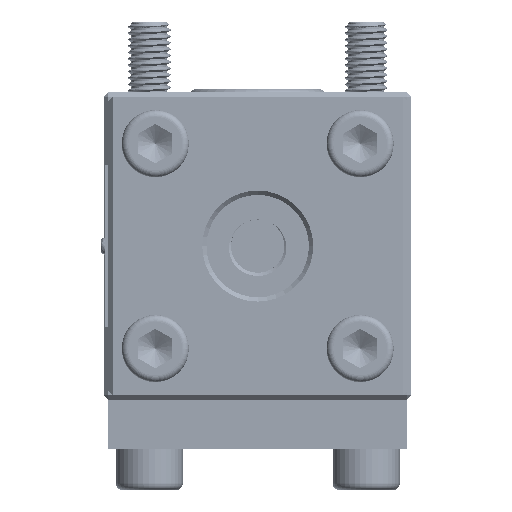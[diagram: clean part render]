
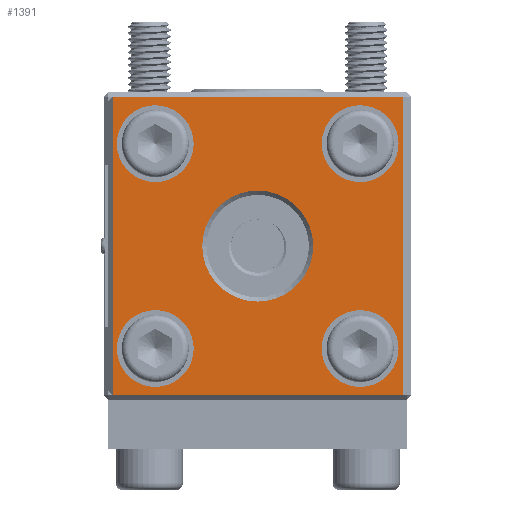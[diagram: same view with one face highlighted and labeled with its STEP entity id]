
A CAD part, left-side view. The second image highlights one B-rep face of the part: STEP entity #1391.
In plain terms, the highlighted planar face has unit normal (-1, 0, 0).
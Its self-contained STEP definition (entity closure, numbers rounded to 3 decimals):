
#1059=PLANE('',#6165);
#1391=ADVANCED_FACE('',(#1787,#1788,#1789,#1790,#1791,#1792),#1059,.F.);
#1787=FACE_BOUND('',#2255,.T.);
#1788=FACE_BOUND('',#2256,.T.);
#1789=FACE_BOUND('',#2257,.T.);
#1790=FACE_BOUND('',#2258,.T.);
#1791=FACE_BOUND('',#2259,.T.);
#1792=FACE_BOUND('',#2260,.T.);
#2255=EDGE_LOOP('',(#3702));
#2256=EDGE_LOOP('',(#3703));
#2257=EDGE_LOOP('',(#3704));
#2258=EDGE_LOOP('',(#3705));
#2259=EDGE_LOOP('',(#3706));
#2260=EDGE_LOOP('',(#3707,#3708,#3709,#3710));
#2550=CIRCLE('',#6160,9.);
#2551=CIRCLE('',#6161,9.);
#2552=CIRCLE('',#6162,9.);
#2553=CIRCLE('',#6163,9.);
#2554=CIRCLE('',#6164,13.);
#3702=ORIENTED_EDGE('',*,*,#4993,.T.);
#3703=ORIENTED_EDGE('',*,*,#4994,.T.);
#3704=ORIENTED_EDGE('',*,*,#4995,.T.);
#3705=ORIENTED_EDGE('',*,*,#4996,.T.);
#3706=ORIENTED_EDGE('',*,*,#4997,.F.);
#3707=ORIENTED_EDGE('',*,*,#4998,.T.);
#3708=ORIENTED_EDGE('',*,*,#4999,.F.);
#3709=ORIENTED_EDGE('',*,*,#5000,.F.);
#3710=ORIENTED_EDGE('',*,*,#5001,.T.);
#4390=VERTEX_POINT('',#58904);
#4391=VERTEX_POINT('',#58906);
#4392=VERTEX_POINT('',#58908);
#4393=VERTEX_POINT('',#58910);
#4394=VERTEX_POINT('',#58912);
#4395=VERTEX_POINT('',#58914);
#4396=VERTEX_POINT('',#58915);
#4397=VERTEX_POINT('',#58917);
#4398=VERTEX_POINT('',#58919);
#4993=EDGE_CURVE('',#4390,#4390,#2550,.T.);
#4994=EDGE_CURVE('',#4391,#4391,#2551,.T.);
#4995=EDGE_CURVE('',#4392,#4392,#2552,.T.);
#4996=EDGE_CURVE('',#4393,#4393,#2553,.T.);
#4997=EDGE_CURVE('',#4394,#4394,#2554,.T.);
#4998=EDGE_CURVE('',#4395,#4396,#5382,.T.);
#4999=EDGE_CURVE('',#4397,#4396,#5383,.T.);
#5000=EDGE_CURVE('',#4398,#4397,#5384,.T.);
#5001=EDGE_CURVE('',#4398,#4395,#5385,.T.);
#5382=LINE('',#58913,#5684);
#5383=LINE('',#58916,#5685);
#5384=LINE('',#58918,#5686);
#5385=LINE('',#58920,#5687);
#5684=VECTOR('',#7300,1.);
#5685=VECTOR('',#7301,1.);
#5686=VECTOR('',#7302,1.);
#5687=VECTOR('',#7303,1.);
#6160=AXIS2_PLACEMENT_3D('',#58903,#7290,#7291);
#6161=AXIS2_PLACEMENT_3D('',#58905,#7292,#7293);
#6162=AXIS2_PLACEMENT_3D('',#58907,#7294,#7295);
#6163=AXIS2_PLACEMENT_3D('',#58909,#7296,#7297);
#6164=AXIS2_PLACEMENT_3D('',#58911,#7298,#7299);
#6165=AXIS2_PLACEMENT_3D('',#58921,#7304,#7305);
#7290=DIRECTION('',(1.,0.,0.));
#7291=DIRECTION('',(0.,0.,-1.));
#7292=DIRECTION('',(1.,0.,0.));
#7293=DIRECTION('',(0.,0.,-1.));
#7294=DIRECTION('',(1.,0.,0.));
#7295=DIRECTION('',(0.,0.,-1.));
#7296=DIRECTION('',(1.,0.,0.));
#7297=DIRECTION('',(0.,0.,-1.));
#7298=DIRECTION('',(-1.,0.,0.));
#7299=DIRECTION('',(0.,0.,1.));
#7300=DIRECTION('',(0.,-1.,0.));
#7301=DIRECTION('',(0.,0.,-1.));
#7302=DIRECTION('',(0.,-1.,0.));
#7303=DIRECTION('',(0.,0.,-1.));
#7304=DIRECTION('',(1.,0.,0.));
#7305=DIRECTION('',(0.,0.,1.));
#58903=CARTESIAN_POINT('',(152.452,226.81,-24.107));
#58904=CARTESIAN_POINT('',(152.452,226.81,-33.107));
#58905=CARTESIAN_POINT('',(152.452,226.81,23.893));
#58906=CARTESIAN_POINT('',(152.452,226.81,14.893));
#58907=CARTESIAN_POINT('',(152.452,274.81,-24.107));
#58908=CARTESIAN_POINT('',(152.452,274.81,-33.107));
#58909=CARTESIAN_POINT('',(152.452,274.81,23.893));
#58910=CARTESIAN_POINT('',(152.452,274.81,14.893));
#58911=CARTESIAN_POINT('',(152.452,250.81,-0.107));
#58912=CARTESIAN_POINT('',(152.452,250.81,12.893));
#58913=CARTESIAN_POINT('',(152.452,284.81,-35.107));
#58914=CARTESIAN_POINT('',(152.452,284.81,-35.107));
#58915=CARTESIAN_POINT('',(152.452,216.81,-35.107));
#58916=CARTESIAN_POINT('',(152.452,216.81,34.893));
#58917=CARTESIAN_POINT('',(152.452,216.81,34.893));
#58918=CARTESIAN_POINT('',(152.452,284.81,34.893));
#58919=CARTESIAN_POINT('',(152.452,284.81,34.893));
#58920=CARTESIAN_POINT('',(152.452,284.81,34.893));
#58921=CARTESIAN_POINT('',(152.452,284.81,34.893));
